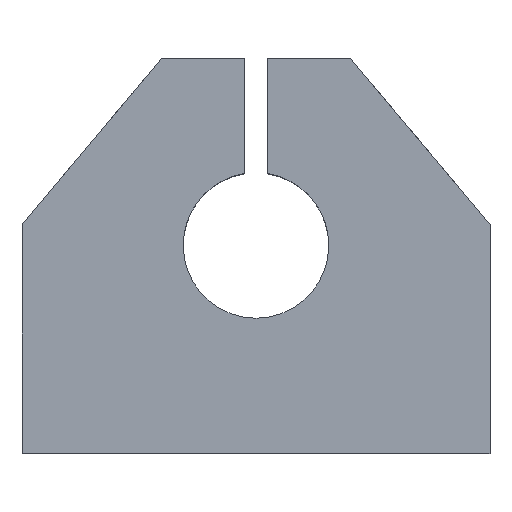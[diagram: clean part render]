
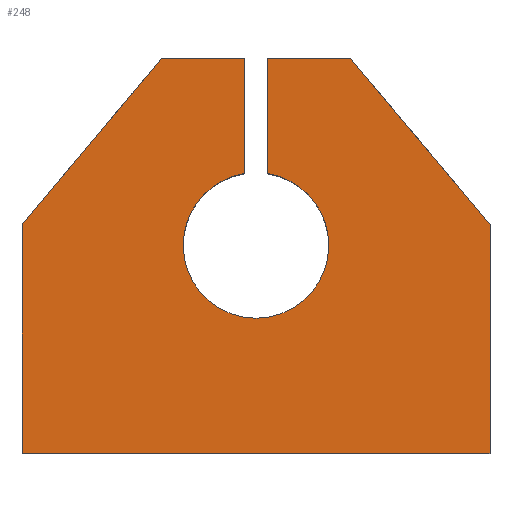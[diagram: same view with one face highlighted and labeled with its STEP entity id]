
A CAD part, top view. The second image highlights one B-rep face of the part: STEP entity #248.
In plain terms, the highlighted planar face has unit normal (0, 0, 1).
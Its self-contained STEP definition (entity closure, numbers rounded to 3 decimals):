
#2 = ORIENTED_EDGE ( 'NONE', *, *, #903, .T. ) ;
#13 = ORIENTED_EDGE ( 'NONE', *, *, #137, .F. ) ;
#40 = DIRECTION ( 'NONE',  ( 1., 0., 0. ) ) ;
#42 = ORIENTED_EDGE ( 'NONE', *, *, #449, .T. ) ;
#46 = CARTESIAN_POINT ( 'NONE',  ( 1.075, 7.917, 10. ) ) ;
#53 = DIRECTION ( 'NONE',  ( -1., 0., 0. ) ) ;
#80 = DIRECTION ( 'NONE',  ( 0., -1., 0. ) ) ;
#86 = ORIENTED_EDGE ( 'NONE', *, *, #609, .F. ) ;
#108 = DIRECTION ( 'NONE',  ( 0., -1., 0. ) ) ;
#114 = EDGE_CURVE ( 'NONE', #476, #1187, #250, .T. ) ;
#115 = AXIS2_PLACEMENT_3D ( 'NONE', #386, #680, #778 ) ;
#134 = LINE ( 'NONE', #308, #596 ) ;
#137 = EDGE_CURVE ( 'NONE', #509, #976, #243, .T. ) ;
#143 = DIRECTION ( 'NONE',  ( 0., 0., 1. ) ) ;
#152 = VECTOR ( 'NONE', #731, 1000. ) ;
#155 = DIRECTION ( 'NONE',  ( -1., 0., 0. ) ) ;
#161 = EDGE_CURVE ( 'NONE', #829, #739, #1089, .T. ) ;
#169 = ORIENTED_EDGE ( 'NONE', *, *, #206, .F. ) ;
#172 = VERTEX_POINT ( 'NONE', #707 ) ;
#173 = VECTOR ( 'NONE', #781, 1000. ) ;
#174 = CARTESIAN_POINT ( 'NONE',  ( -1.075, 19., 10. ) ) ;
#178 = VERTEX_POINT ( 'NONE', #1014 ) ;
#187 = ORIENTED_EDGE ( 'NONE', *, *, #618, .T. ) ;
#206 = EDGE_CURVE ( 'NONE', #172, #509, #1161, .T. ) ;
#208 = PLANE ( 'NONE',  #115 ) ;
#218 = AXIS2_PLACEMENT_3D ( 'NONE', #521, #143, #909 ) ;
#229 = CARTESIAN_POINT ( 'NONE',  ( 22.5, -19., 10. ) ) ;
#241 = DIRECTION ( 'NONE',  ( 0., 0., 1. ) ) ;
#243 = CIRCLE ( 'NONE', #372, 7. ) ;
#248 = ADVANCED_FACE ( 'NONE', ( #1138 ), #208, .T. ) ;
#250 = LINE ( 'NONE', #1082, #703 ) ;
#262 = EDGE_LOOP ( 'NONE', ( #187, #943, #13, #169, #86, #454, #351, #2, #42, #278, #469, #598 ) ) ;
#269 = CIRCLE ( 'NONE', #218, 7. ) ;
#278 = ORIENTED_EDGE ( 'NONE', *, *, #520, .T. ) ;
#291 = CARTESIAN_POINT ( 'NONE',  ( 22.5, 19., 10. ) ) ;
#308 = CARTESIAN_POINT ( 'NONE',  ( -22.5, -19., 10. ) ) ;
#326 = CARTESIAN_POINT ( 'NONE',  ( -22.5, -19., 10. ) ) ;
#351 = ORIENTED_EDGE ( 'NONE', *, *, #161, .T. ) ;
#372 = AXIS2_PLACEMENT_3D ( 'NONE', #1176, #241, #826 ) ;
#373 = VECTOR ( 'NONE', #53, 1000. ) ;
#386 = CARTESIAN_POINT ( 'NONE',  ( 0., 0., 10. ) ) ;
#399 = CARTESIAN_POINT ( 'NONE',  ( 7., 1., 10. ) ) ;
#401 = DIRECTION ( 'NONE',  ( 1., 0., 0. ) ) ;
#408 = CARTESIAN_POINT ( 'NONE',  ( 9.074, 19., 10. ) ) ;
#449 = EDGE_CURVE ( 'NONE', #835, #1033, #1034, .T. ) ;
#454 = ORIENTED_EDGE ( 'NONE', *, *, #774, .F. ) ;
#469 = ORIENTED_EDGE ( 'NONE', *, *, #1095, .T. ) ;
#476 = VERTEX_POINT ( 'NONE', #478 ) ;
#478 = CARTESIAN_POINT ( 'NONE',  ( 22.5, 3., 10. ) ) ;
#490 = LINE ( 'NONE', #779, #525 ) ;
#508 = AXIS2_PLACEMENT_3D ( 'NONE', #672, #1146, #401 ) ;
#509 = VERTEX_POINT ( 'NONE', #399 ) ;
#520 = EDGE_CURVE ( 'NONE', #1033, #1044, #134, .T. ) ;
#521 = CARTESIAN_POINT ( 'NONE',  ( 0., 1., 10. ) ) ;
#525 = VECTOR ( 'NONE', #108, 1000. ) ;
#526 = CARTESIAN_POINT ( 'NONE',  ( -1.075, 7.917, 10. ) ) ;
#535 = CARTESIAN_POINT ( 'NONE',  ( -22.5, 19., 10. ) ) ;
#594 = VECTOR ( 'NONE', #155, 1000. ) ;
#596 = VECTOR ( 'NONE', #40, 1000. ) ;
#598 = ORIENTED_EDGE ( 'NONE', *, *, #114, .T. ) ;
#609 = EDGE_CURVE ( 'NONE', #1127, #172, #269, .T. ) ;
#618 = EDGE_CURVE ( 'NONE', #1187, #178, #1075, .T. ) ;
#625 = CARTESIAN_POINT ( 'NONE',  ( -22.5, 19., 10. ) ) ;
#672 = CARTESIAN_POINT ( 'NONE',  ( 0., 1., 10. ) ) ;
#680 = DIRECTION ( 'NONE',  ( 0., 0., 1. ) ) ;
#703 = VECTOR ( 'NONE', #819, 1000. ) ;
#707 = CARTESIAN_POINT ( 'NONE',  ( -7., 1., 10. ) ) ;
#714 = LINE ( 'NONE', #291, #152 ) ;
#731 = DIRECTION ( 'NONE',  ( 0., 1., 0. ) ) ;
#733 = CARTESIAN_POINT ( 'NONE',  ( -9.074, 19., 10. ) ) ;
#739 = VERTEX_POINT ( 'NONE', #733 ) ;
#774 = EDGE_CURVE ( 'NONE', #829, #1127, #1020, .T. ) ;
#778 = DIRECTION ( 'NONE',  ( 1., 0., 0. ) ) ;
#779 = CARTESIAN_POINT ( 'NONE',  ( 1.075, 19., 10. ) ) ;
#781 = DIRECTION ( 'NONE',  ( -0.643, -0.766, 0. ) ) ;
#819 = DIRECTION ( 'NONE',  ( -0.643, 0.766, 0. ) ) ;
#826 = DIRECTION ( 'NONE',  ( 1., 0., 0. ) ) ;
#829 = VERTEX_POINT ( 'NONE', #974 ) ;
#835 = VERTEX_POINT ( 'NONE', #886 ) ;
#850 = CARTESIAN_POINT ( 'NONE',  ( -22.5, 19., 10. ) ) ;
#886 = CARTESIAN_POINT ( 'NONE',  ( -22.5, 3., 10. ) ) ;
#903 = EDGE_CURVE ( 'NONE', #739, #835, #1061, .T. ) ;
#906 = VECTOR ( 'NONE', #1131, 1000. ) ;
#909 = DIRECTION ( 'NONE',  ( 1., 0., 0. ) ) ;
#943 = ORIENTED_EDGE ( 'NONE', *, *, #1177, .T. ) ;
#974 = CARTESIAN_POINT ( 'NONE',  ( -1.075, 19., 10. ) ) ;
#976 = VERTEX_POINT ( 'NONE', #46 ) ;
#1014 = CARTESIAN_POINT ( 'NONE',  ( 1.075, 19., 10. ) ) ;
#1020 = LINE ( 'NONE', #174, #1077 ) ;
#1033 = VERTEX_POINT ( 'NONE', #326 ) ;
#1034 = LINE ( 'NONE', #850, #906 ) ;
#1044 = VERTEX_POINT ( 'NONE', #229 ) ;
#1051 = CARTESIAN_POINT ( 'NONE',  ( -14.681, 12.319, 10. ) ) ;
#1061 = LINE ( 'NONE', #1051, #173 ) ;
#1075 = LINE ( 'NONE', #535, #373 ) ;
#1077 = VECTOR ( 'NONE', #80, 1000. ) ;
#1082 = CARTESIAN_POINT ( 'NONE',  ( 14.681, 12.319, 10. ) ) ;
#1089 = LINE ( 'NONE', #625, #594 ) ;
#1095 = EDGE_CURVE ( 'NONE', #1044, #476, #714, .T. ) ;
#1127 = VERTEX_POINT ( 'NONE', #526 ) ;
#1131 = DIRECTION ( 'NONE',  ( 0., -1., 0. ) ) ;
#1138 = FACE_OUTER_BOUND ( 'NONE', #262, .T. ) ;
#1146 = DIRECTION ( 'NONE',  ( 0., 0., 1. ) ) ;
#1161 = CIRCLE ( 'NONE', #508, 7. ) ;
#1176 = CARTESIAN_POINT ( 'NONE',  ( 0., 1., 10. ) ) ;
#1177 = EDGE_CURVE ( 'NONE', #178, #976, #490, .T. ) ;
#1187 = VERTEX_POINT ( 'NONE', #408 ) ;
